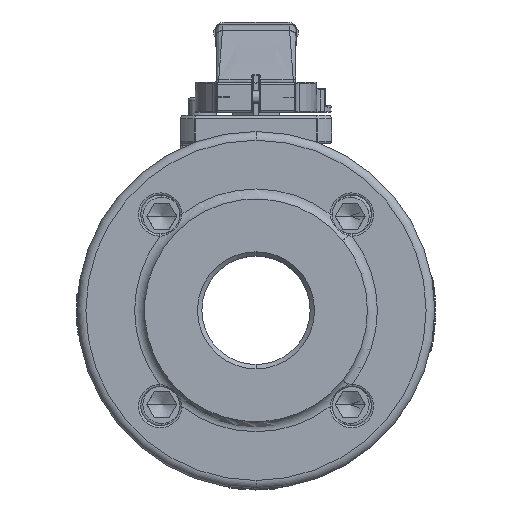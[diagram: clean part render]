
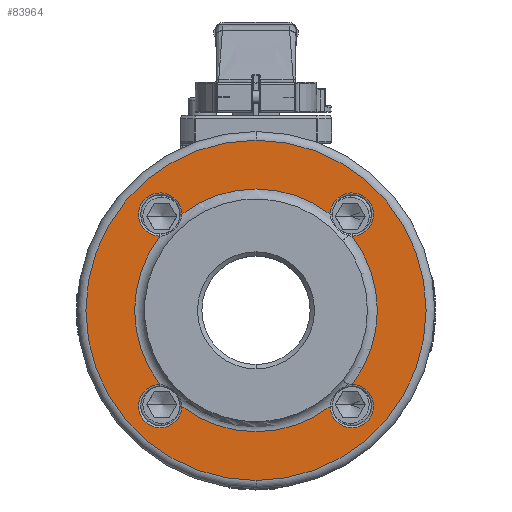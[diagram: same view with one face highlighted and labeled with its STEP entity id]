
A CAD part, left-side view. The second image highlights one B-rep face of the part: STEP entity #83964.
In plain terms, the highlighted planar face has unit normal (-1, 0, 0).
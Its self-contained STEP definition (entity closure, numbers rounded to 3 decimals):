
#19395=CARTESIAN_POINT('',(-57.,0.,0.));
#19396=DIRECTION('',(1.,0.,0.));
#19397=DIRECTION('',(0.,-0.611,-0.792));
#19398=AXIS2_PLACEMENT_3D('',#19395,#19396,#19397);
#19400=CARTESIAN_POINT('',(-57.,0.,0.));
#19401=DIRECTION('',(-1.,0.,0.));
#19402=DIRECTION('',(0.,0.792,0.611));
#19403=AXIS2_PLACEMENT_3D('',#19400,#19401,#19402);
#19405=CARTESIAN_POINT('',(-57.,0.,0.));
#19406=DIRECTION('',(1.,0.,0.));
#19407=DIRECTION('',(0.,0.611,0.792));
#19408=AXIS2_PLACEMENT_3D('',#19405,#19406,#19407);
#19415=CARTESIAN_POINT('',(-57.,0.,0.));
#19416=DIRECTION('',(-1.,0.,0.));
#19417=DIRECTION('',(0.,-0.792,-0.611));
#19418=AXIS2_PLACEMENT_3D('',#19415,#19416,#19417);
#19425=CARTESIAN_POINT('',(-57.,-44.347,
34.195));
#19531=CARTESIAN_POINT('',(-57.,-34.195,
44.347));
#19545=CARTESIAN_POINT('',(-57.,-44.194,44.194));
#19546=DIRECTION('',(1.,0.,0.));
#19547=DIRECTION('',(0.,1.,0.015));
#19548=AXIS2_PLACEMENT_3D('',#19545,#19546,#19547);
#19570=CARTESIAN_POINT('',(-57.,0.,0.));
#19571=DIRECTION('',(1.,0.,0.));
#19572=DIRECTION('',(0.,0.,-1.));
#19573=AXIS2_PLACEMENT_3D('',#19570,#19571,#19572);
#19593=CARTESIAN_POINT('',(-57.,0.,0.));
#19594=DIRECTION('',(1.,0.,0.));
#19595=DIRECTION('',(0.,0.,1.));
#19596=AXIS2_PLACEMENT_3D('',#19593,#19594,#19595);
#19812=CARTESIAN_POINT('',(-57.,44.347,
34.195));
#19876=CARTESIAN_POINT('',(-57.,44.194,44.194));
#19877=DIRECTION('',(1.,0.,0.));
#19878=DIRECTION('',(0.,0.015,-1.));
#19879=AXIS2_PLACEMENT_3D('',#19876,#19877,#19878);
#19885=CARTESIAN_POINT('',(-57.,34.195,
44.347));
#19953=CARTESIAN_POINT('',(-57.,-44.194,-44.194));
#19954=DIRECTION('',(1.,0.,0.));
#19955=DIRECTION('',(0.,-0.015,1.));
#19956=AXIS2_PLACEMENT_3D('',#19953,#19954,#19955);
#19969=CARTESIAN_POINT('',(-57.,-44.347,
-34.195));
#20063=CARTESIAN_POINT('',(-57.,-34.195,
-44.347));
#20121=CARTESIAN_POINT('',(-57.,34.195,
-44.347));
#20135=CARTESIAN_POINT('',(-57.,44.194,-44.194));
#20136=DIRECTION('',(1.,0.,0.));
#20137=DIRECTION('',(0.,-1.,-0.015));
#20138=AXIS2_PLACEMENT_3D('',#20135,#20136,#20137);
#20155=CARTESIAN_POINT('',(-57.,44.347,
-34.195));
#44604=CARTESIAN_POINT('',(-57.,0.,-78.5));
#44605=CARTESIAN_POINT('',(-57.,0.,78.5));
#44606=VERTEX_POINT('',#44604);
#44607=VERTEX_POINT('',#44605);
#44625=VERTEX_POINT('',#19425);
#44630=VERTEX_POINT('',#19531);
#44632=VERTEX_POINT('',#19885);
#44636=VERTEX_POINT('',#19812);
#44644=VERTEX_POINT('',#20155);
#44647=VERTEX_POINT('',#20121);
#44650=VERTEX_POINT('',#19969);
#44657=VERTEX_POINT('',#20063);
#83940=CARTESIAN_POINT('',(-57.,0.,0.));
#83941=DIRECTION('',(-1.,0.,0.));
#83942=DIRECTION('',(0.,0.,1.));
#83943=AXIS2_PLACEMENT_3D('',#83940,#83941,#83942);
#83944=PLANE('',#83943);
#83946=ORIENTED_EDGE('',*,*,#83945,.T.);
#83948=ORIENTED_EDGE('',*,*,#83947,.T.);
#83949=EDGE_LOOP('',(#83946,#83948));
#83950=FACE_OUTER_BOUND('',#83949,.F.);
#83951=ORIENTED_EDGE('',*,*,#83929,.F.);
#83952=ORIENTED_EDGE('',*,*,#83653,.F.);
#83954=ORIENTED_EDGE('',*,*,#83953,.F.);
#83955=ORIENTED_EDGE('',*,*,#83647,.T.);
#83957=ORIENTED_EDGE('',*,*,#83956,.F.);
#83958=ORIENTED_EDGE('',*,*,#83641,.F.);
#83960=ORIENTED_EDGE('',*,*,#83959,.F.);
#83961=ORIENTED_EDGE('',*,*,#83673,.T.);
#83962=EDGE_LOOP('',(#83951,#83952,#83954,#83955,#83957,#83958,#83960,#83961));
#83963=FACE_BOUND('',#83962,.F.);
#83964=ADVANCED_FACE('',(#83950,#83963),#83944,.T.);
#19399=CIRCLE('',#19398,56.);
#19404=CIRCLE('',#19403,56.);
#19409=CIRCLE('',#19408,56.);
#19419=CIRCLE('',#19418,56.);
#19549=CIRCLE('',#19548,10.);
#19574=CIRCLE('',#19573,78.5);
#19597=CIRCLE('',#19596,78.5);
#19880=CIRCLE('',#19879,10.);
#19957=CIRCLE('',#19956,10.);
#20139=CIRCLE('',#20138,10.);
#83641=EDGE_CURVE('',#44657,#44647,#19399,.T.);
#83647=EDGE_CURVE('',#44636,#44644,#19404,.T.);
#83653=EDGE_CURVE('',#44632,#44630,#19409,.T.);
#83673=EDGE_CURVE('',#44650,#44625,#19419,.T.);
#83929=EDGE_CURVE('',#44630,#44625,#19549,.T.);
#83945=EDGE_CURVE('',#44606,#44607,#19574,.T.);
#83947=EDGE_CURVE('',#44607,#44606,#19597,.T.);
#83953=EDGE_CURVE('',#44636,#44632,#19880,.T.);
#83956=EDGE_CURVE('',#44647,#44644,#20139,.T.);
#83959=EDGE_CURVE('',#44650,#44657,#19957,.T.);
